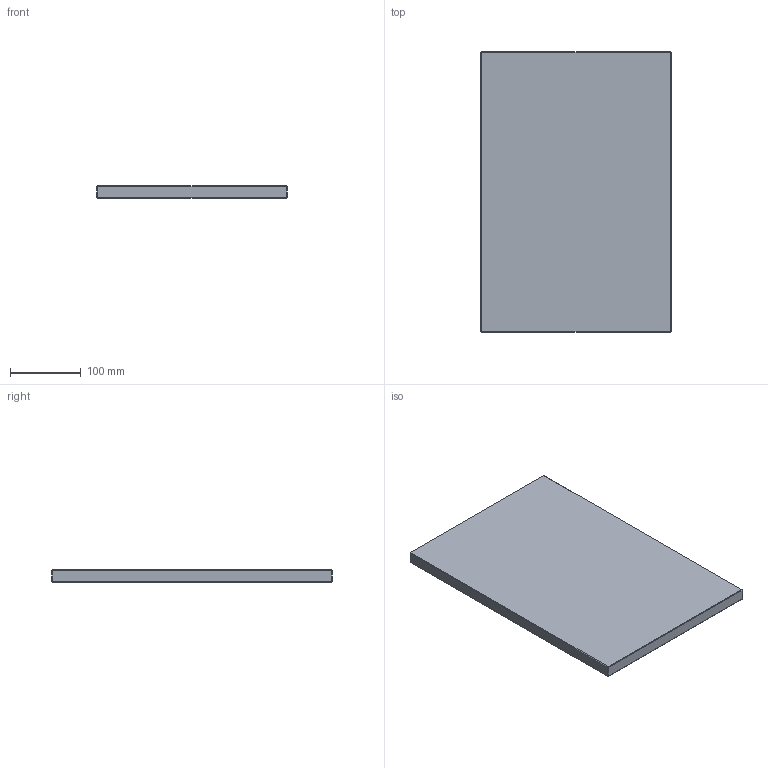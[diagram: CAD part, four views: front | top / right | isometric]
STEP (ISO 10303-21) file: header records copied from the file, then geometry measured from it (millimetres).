
FILE_DESCRIPTION (( 'STEP AP214' ), '1' );
FILE_NAME ('CPE-P-396x396x17.STEP', '2021-03-25T13:59:13', ( '' ), ( '' ), 'SwSTEP 2.0', 'SolidWorks 2018', '' );
FILE_SCHEMA (( 'AUTOMOTIVE_DESIGN' ));
Length unit declared in the file: millimetre
Products named in the file (1): CPE-P-396x396x17
Bounding box: 268 x 396 x 17 mm (x, y, z)
Volume: 1802819.3 mm3; surface area: 233233.3 mm2
Topology: 1 solids, 1 shells, 26 faces, 48 edges, 24 vertices
Faces by surface type: plane 26
Entity records: 634 total; most frequent: DIRECTION 102, CARTESIAN_POINT 99, ORIENTED_EDGE 96, EDGE_CURVE 48, LINE 48, VECTOR 48, AXIS2_PLACEMENT_3D 27, PLANE 26
